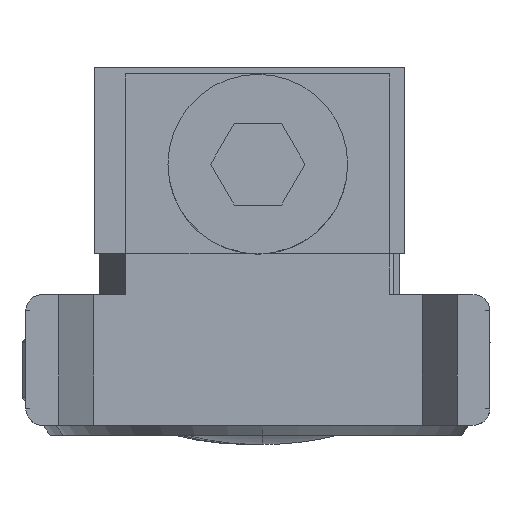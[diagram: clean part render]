
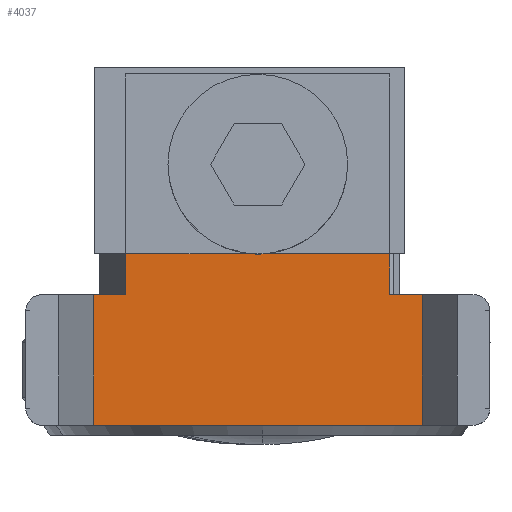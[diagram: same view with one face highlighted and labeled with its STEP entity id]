
A CAD part, left-side view. The second image highlights one B-rep face of the part: STEP entity #4037.
In plain terms, the highlighted planar face has unit normal (-1, 0, 0).
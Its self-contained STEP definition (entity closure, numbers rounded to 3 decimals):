
#30 = CARTESIAN_POINT ( 'NONE',  ( 4., -4., 0. ) ) ;
#41 = AXIS2_PLACEMENT_3D ( 'NONE', #6746, #6277, #5031 ) ;
#53 = EDGE_LOOP ( 'NONE', ( #4687, #1011, #3611, #4214, #6569, #5133, #754, #7154, #4074, #6472 ) ) ;
#55 = DIRECTION ( 'NONE',  ( 0., 0., 1. ) ) ;
#302 = VECTOR ( 'NONE', #4464, 1000. ) ;
#316 = EDGE_CURVE ( 'NONE', #7262, #2745, #2082, .T. ) ;
#333 = VERTEX_POINT ( 'NONE', #5562 ) ;
#490 = CARTESIAN_POINT ( 'NONE',  ( 4., 1.25, -5.028 ) ) ;
#629 = DIRECTION ( 'NONE',  ( 0., -1., 0. ) ) ;
#705 = CARTESIAN_POINT ( 'NONE',  ( 4., -4., -5.028 ) ) ;
#734 = VECTOR ( 'NONE', #4717, 1000. ) ;
#754 = ORIENTED_EDGE ( 'NONE', *, *, #3883, .F. ) ;
#932 = DIRECTION ( 'NONE',  ( 0., -1., 0. ) ) ;
#959 = VERTEX_POINT ( 'NONE', #3349 ) ;
#1011 = ORIENTED_EDGE ( 'NONE', *, *, #5198, .F. ) ;
#1091 = CARTESIAN_POINT ( 'NONE',  ( 4., -4., -5.028 ) ) ;
#1497 = DIRECTION ( 'NONE',  ( 0., -1., 0. ) ) ;
#1917 = VECTOR ( 'NONE', #6784, 1000. ) ;
#2082 = LINE ( 'NONE', #2592, #302 ) ;
#2166 = EDGE_CURVE ( 'NONE', #3114, #2745, #5644, .T. ) ;
#2205 = VECTOR ( 'NONE', #629, 1000. ) ;
#2592 = CARTESIAN_POINT ( 'NONE',  ( 4., 1.25, -5.028 ) ) ;
#2600 = DIRECTION ( 'NONE',  ( 0., 0., 1. ) ) ;
#2615 = CARTESIAN_POINT ( 'NONE',  ( 4., 1.25, 0.234 ) ) ;
#2688 = CARTESIAN_POINT ( 'NONE',  ( 4., 1.25, 4.04 ) ) ;
#2709 = VERTEX_POINT ( 'NONE', #7151 ) ;
#2745 = VERTEX_POINT ( 'NONE', #2615 ) ;
#2847 = CARTESIAN_POINT ( 'NONE',  ( 4., 0., 4.04 ) ) ;
#2881 = LINE ( 'NONE', #4894, #4042 ) ;
#2905 = VERTEX_POINT ( 'NONE', #2847 ) ;
#2937 = EDGE_CURVE ( 'NONE', #2709, #4885, #3897, .T. ) ;
#3022 = CARTESIAN_POINT ( 'NONE',  ( 4., 0., -4.04 ) ) ;
#3089 = CARTESIAN_POINT ( 'NONE',  ( 4., 1.25, -4.04 ) ) ;
#3114 = VERTEX_POINT ( 'NONE', #4116 ) ;
#3122 = LINE ( 'NONE', #3022, #734 ) ;
#3131 = VECTOR ( 'NONE', #932, 1000. ) ;
#3234 = CARTESIAN_POINT ( 'NONE',  ( 4., 0., 0. ) ) ;
#3259 = VECTOR ( 'NONE', #6879, 1000. ) ;
#3349 = CARTESIAN_POINT ( 'NONE',  ( 4., 0., -5.028 ) ) ;
#3442 = LINE ( 'NONE', #3234, #3797 ) ;
#3605 = CARTESIAN_POINT ( 'NONE',  ( 4., -4., 5.028 ) ) ;
#3611 = ORIENTED_EDGE ( 'NONE', *, *, #316, .T. ) ;
#3671 = VECTOR ( 'NONE', #55, 1000. ) ;
#3786 = CARTESIAN_POINT ( 'NONE',  ( 4., -4., -5.028 ) ) ;
#3797 = VECTOR ( 'NONE', #2600, 1000. ) ;
#3883 = EDGE_CURVE ( 'NONE', #959, #333, #3442, .T. ) ;
#3897 = LINE ( 'NONE', #4022, #2205 ) ;
#4022 = CARTESIAN_POINT ( 'NONE',  ( 4., -4., 5.028 ) ) ;
#4029 = LINE ( 'NONE', #3786, #3131 ) ;
#4037 = ADVANCED_FACE ( 'NONE', ( #5742 ), #6685, .T. ) ;
#4042 = VECTOR ( 'NONE', #1497, 1000. ) ;
#4060 = EDGE_CURVE ( 'NONE', #3114, #6478, #5384, .T. ) ;
#4074 = ORIENTED_EDGE ( 'NONE', *, *, #5468, .T. ) ;
#4110 = EDGE_CURVE ( 'NONE', #2709, #2905, #4761, .T. ) ;
#4116 = CARTESIAN_POINT ( 'NONE',  ( 4., 1.25, -0.234 ) ) ;
#4214 = ORIENTED_EDGE ( 'NONE', *, *, #2166, .F. ) ;
#4255 = VERTEX_POINT ( 'NONE', #705 ) ;
#4464 = DIRECTION ( 'NONE',  ( 0., 0., -1. ) ) ;
#4687 = ORIENTED_EDGE ( 'NONE', *, *, #4110, .T. ) ;
#4717 = DIRECTION ( 'NONE',  ( 0., -1., 0. ) ) ;
#4761 = LINE ( 'NONE', #6853, #3259 ) ;
#4885 = VERTEX_POINT ( 'NONE', #3605 ) ;
#4894 = CARTESIAN_POINT ( 'NONE',  ( 4., 0., 4.04 ) ) ;
#4996 = AXIS2_PLACEMENT_3D ( 'NONE', #1091, #5098, #7312 ) ;
#5031 = DIRECTION ( 'NONE',  ( 0., 0., 1. ) ) ;
#5098 = DIRECTION ( 'NONE',  ( -1., 0., 0. ) ) ;
#5133 = ORIENTED_EDGE ( 'NONE', *, *, #6221, .T. ) ;
#5198 = EDGE_CURVE ( 'NONE', #7262, #2905, #2881, .T. ) ;
#5384 = LINE ( 'NONE', #490, #1917 ) ;
#5468 = EDGE_CURVE ( 'NONE', #4255, #4885, #6787, .T. ) ;
#5562 = CARTESIAN_POINT ( 'NONE',  ( 4., 0., -4.04 ) ) ;
#5644 = CIRCLE ( 'NONE', #41, 2.75 ) ;
#5742 = FACE_OUTER_BOUND ( 'NONE', #53, .T. ) ;
#6032 = EDGE_CURVE ( 'NONE', #959, #4255, #4029, .T. ) ;
#6221 = EDGE_CURVE ( 'NONE', #6478, #333, #3122, .T. ) ;
#6277 = DIRECTION ( 'NONE',  ( -1., 0., 0. ) ) ;
#6472 = ORIENTED_EDGE ( 'NONE', *, *, #2937, .F. ) ;
#6478 = VERTEX_POINT ( 'NONE', #3089 ) ;
#6569 = ORIENTED_EDGE ( 'NONE', *, *, #4060, .T. ) ;
#6685 = PLANE ( 'NONE',  #4996 ) ;
#6746 = CARTESIAN_POINT ( 'NONE',  ( 4., 3.99, 0. ) ) ;
#6784 = DIRECTION ( 'NONE',  ( 0., 0., -1. ) ) ;
#6787 = LINE ( 'NONE', #30, #3671 ) ;
#6853 = CARTESIAN_POINT ( 'NONE',  ( 4., 0., -5.028 ) ) ;
#6879 = DIRECTION ( 'NONE',  ( 0., 0., -1. ) ) ;
#7151 = CARTESIAN_POINT ( 'NONE',  ( 4., 0., 5.028 ) ) ;
#7154 = ORIENTED_EDGE ( 'NONE', *, *, #6032, .T. ) ;
#7262 = VERTEX_POINT ( 'NONE', #2688 ) ;
#7312 = DIRECTION ( 'NONE',  ( 0., 0., 1. ) ) ;
